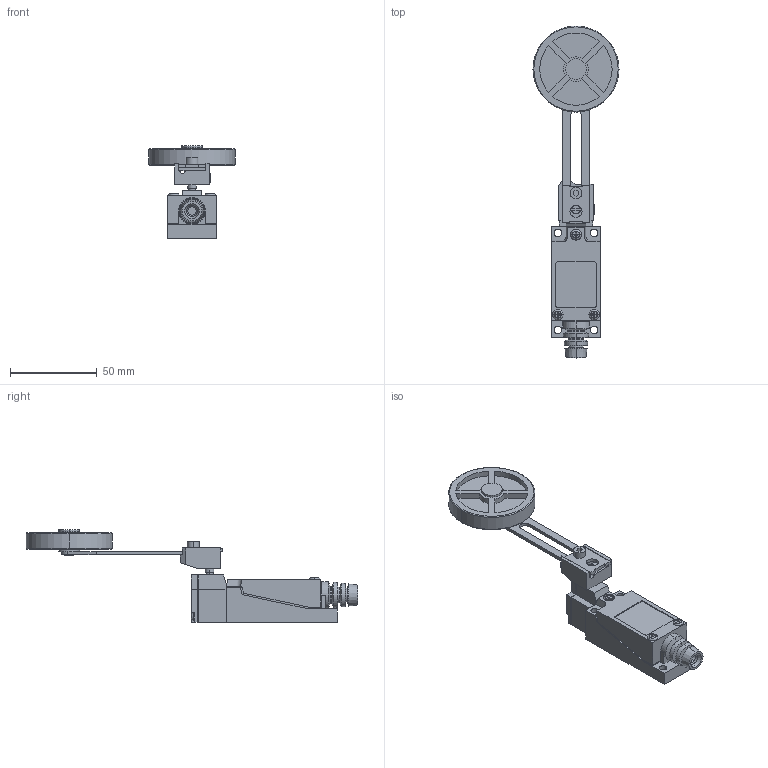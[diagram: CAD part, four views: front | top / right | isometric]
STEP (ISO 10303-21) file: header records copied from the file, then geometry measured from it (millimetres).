
FILE_DESCRIPTION (( 'STEP AP203' ), '1' );
FILE_NAME ('FM8108E.STEP', '2018-06-20T16:21:21', ( '' ), ( '' ), 'SwSTEP 2.0', 'SolidWorks 2012', '' );
FILE_SCHEMA (( 'CONFIG_CONTROL_DESIGN' ));
Length unit declared in the file: millimetre
Products named in the file (1): FM8108E
Bounding box: 49.7 x 191.59 x 53.65 mm (x, y, z)
Volume: 67344.2 mm3; surface area: 24970.7 mm2
Topology: 1 solids, 1 shells, 409 faces, 1060 edges, 688 vertices
Faces by surface type: plane 270, cylinder 95, cone 24, torus 16, bspline 4
Entity records: 12811 total; most frequent: CARTESIAN_POINT 2586, ORIENTED_EDGE 2120, DIRECTION 2072, EDGE_CURVE 1060, LINE 752, VECTOR 752, VERTEX_POINT 688, AXIS2_PLACEMENT_3D 660
